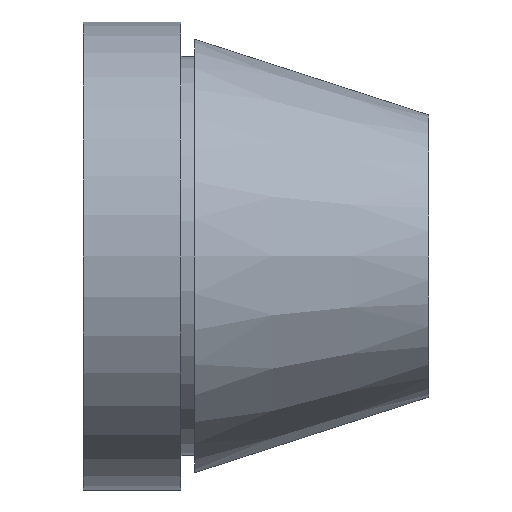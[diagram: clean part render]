
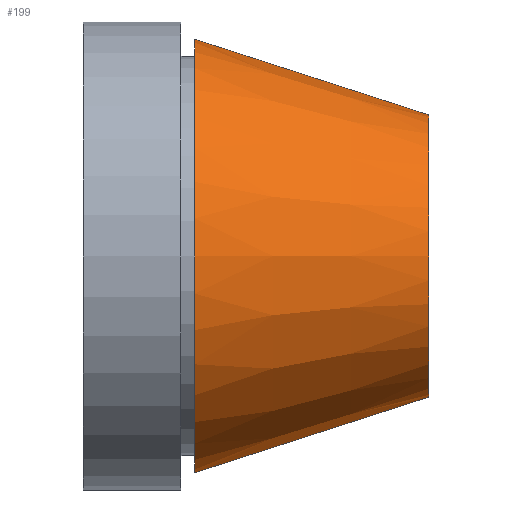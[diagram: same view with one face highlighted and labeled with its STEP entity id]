
A CAD part, left-side view. The second image highlights one B-rep face of the part: STEP entity #199.
In plain terms, the highlighted conical face has half-angle 17.928 degrees and reference radius 10.25 mm.
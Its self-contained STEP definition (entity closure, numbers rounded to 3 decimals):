
#24 = EDGE_CURVE ( 'NONE', #294, #108, #323, .T. ) ;
#26 = FACE_OUTER_BOUND ( 'NONE', #321, .T. ) ;
#30 = CARTESIAN_POINT ( 'NONE',  ( 0., 0., 10.25 ) ) ;
#34 = AXIS2_PLACEMENT_3D ( 'NONE', #139, #135, #143 ) ;
#40 = AXIS2_PLACEMENT_3D ( 'NONE', #233, #234, #232 ) ;
#42 = AXIS2_PLACEMENT_3D ( 'NONE', #190, #194, #192 ) ;
#70 = CIRCLE ( 'NONE', #42, 15.75 ) ;
#79 = VECTOR ( 'NONE', #187, 1000. ) ;
#84 = CIRCLE ( 'NONE', #40, 10.25 ) ;
#85 = CONICAL_SURFACE ( 'NONE', #34, 10.25, 0.313 ) ;
#93 = LINE ( 'NONE', #186, #79 ) ;
#105 = VERTEX_POINT ( 'NONE', #119 ) ;
#108 = VERTEX_POINT ( 'NONE', #111 ) ;
#111 = CARTESIAN_POINT ( 'NONE',  ( 0., 17., -15.75 ) ) ;
#119 = CARTESIAN_POINT ( 'NONE',  ( 0., 17., 15.75 ) ) ;
#125 = CARTESIAN_POINT ( 'NONE',  ( 0., 0., -10.25 ) ) ;
#131 = DIRECTION ( 'NONE',  ( 0., 0.951, -0.308 ) ) ;
#135 = DIRECTION ( 'NONE',  ( 0., 1., 0. ) ) ;
#139 = CARTESIAN_POINT ( 'NONE',  ( 0., 0., 0. ) ) ;
#143 = DIRECTION ( 'NONE',  ( 0., 0., 1. ) ) ;
#186 = CARTESIAN_POINT ( 'NONE',  ( 0., 0., 10.25 ) ) ;
#187 = DIRECTION ( 'NONE',  ( 0., 0.951, 0.308 ) ) ;
#190 = CARTESIAN_POINT ( 'NONE',  ( 0., 17., 0. ) ) ;
#192 = DIRECTION ( 'NONE',  ( 0., 0., -1. ) ) ;
#194 = DIRECTION ( 'NONE',  ( 0., -1., 0. ) ) ;
#199 = ADVANCED_FACE ( 'NONE', ( #26 ), #85, .T. ) ;
#229 = CARTESIAN_POINT ( 'NONE',  ( 0., 0., -10.25 ) ) ;
#232 = DIRECTION ( 'NONE',  ( 0., 0., -1. ) ) ;
#233 = CARTESIAN_POINT ( 'NONE',  ( 0., 0., 0. ) ) ;
#234 = DIRECTION ( 'NONE',  ( 0., -1., 0. ) ) ;
#243 = ORIENTED_EDGE ( 'NONE', *, *, #269, .T. ) ;
#247 = ORIENTED_EDGE ( 'NONE', *, *, #271, .T. ) ;
#260 = ORIENTED_EDGE ( 'NONE', *, *, #270, .F. ) ;
#268 = ORIENTED_EDGE ( 'NONE', *, *, #24, .F. ) ;
#269 = EDGE_CURVE ( 'NONE', #334, #105, #93, .T. ) ;
#270 = EDGE_CURVE ( 'NONE', #334, #294, #84, .T. ) ;
#271 = EDGE_CURVE ( 'NONE', #105, #108, #70, .T. ) ;
#294 = VERTEX_POINT ( 'NONE', #229 ) ;
#296 = VECTOR ( 'NONE', #131, 1000. ) ;
#321 = EDGE_LOOP ( 'NONE', ( #268, #260, #243, #247 ) ) ;
#323 = LINE ( 'NONE', #125, #296 ) ;
#334 = VERTEX_POINT ( 'NONE', #30 ) ;
